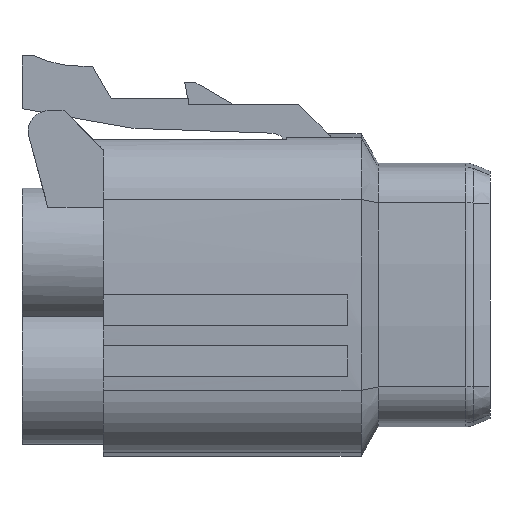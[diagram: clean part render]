
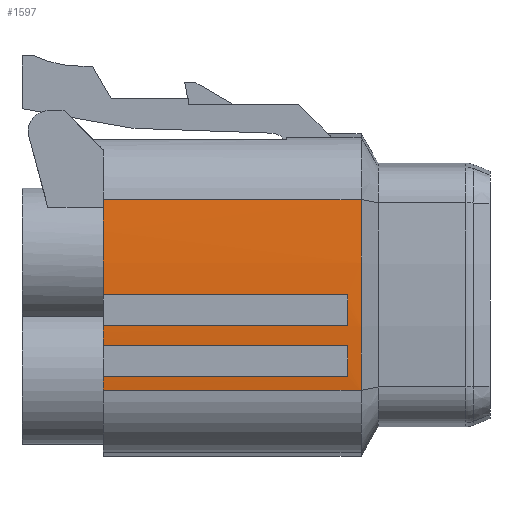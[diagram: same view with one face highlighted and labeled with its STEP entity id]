
A CAD part, front view. The second image highlights one B-rep face of the part: STEP entity #1597.
In plain terms, the highlighted cylindrical face has radius 41.45 mm (diameter 82.9 mm), a partial arc.
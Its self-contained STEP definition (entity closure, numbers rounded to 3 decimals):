
#328=AXIS2_PLACEMENT_3D('Circle Axis2P3D',#326,#327,$) ;
#445=AXIS2_PLACEMENT_3D('Circle Axis2P3D',#443,#444,$) ;
#473=AXIS2_PLACEMENT_3D('Circle Axis2P3D',#471,#472,$) ;
#1531=AXIS2_PLACEMENT_3D('Cylinder Axis2P3D',#1528,#1529,#1530) ;
#1542=AXIS2_PLACEMENT_3D('Circle Axis2P3D',#1540,#1541,$) ;
#1561=AXIS2_PLACEMENT_3D('Circle Axis2P3D',#1559,#1560,$) ;
#1573=AXIS2_PLACEMENT_3D('Circle Axis2P3D',#1571,#1572,$) ;
#323=CARTESIAN_POINT('Vertex',(-19.,-4.05,-1.7)) ;
#326=CARTESIAN_POINT('Axis2P3D Location',(-19.,37.4,-1.7)) ;
#330=CARTESIAN_POINT('Vertex',(-19.,-3.784,2.988)) ;
#440=CARTESIAN_POINT('Vertex',(-19.,-3.784,-6.388)) ;
#443=CARTESIAN_POINT('Axis2P3D Location',(-19.,37.4,-1.7)) ;
#447=CARTESIAN_POINT('Vertex',(-19.,-3.857,-5.7)) ;
#468=CARTESIAN_POINT('Vertex',(-19.,-3.975,-4.2)) ;
#471=CARTESIAN_POINT('Axis2P3D Location',(-19.,37.4,-1.7)) ;
#475=CARTESIAN_POINT('Vertex',(-19.,-4.023,-3.2)) ;
#1493=CARTESIAN_POINT('Line Origine',(-12.25,-3.784,2.988)) ;
#1497=CARTESIAN_POINT('Vertex',(-6.337,-3.784,2.988)) ;
#1528=CARTESIAN_POINT('Axis2P3D Location',(-12.25,37.4,-1.7)) ;
#1533=CARTESIAN_POINT('Line Origine',(-12.25,-3.975,-4.2)) ;
#1537=CARTESIAN_POINT('Vertex',(-7.,-3.975,-4.2)) ;
#1540=CARTESIAN_POINT('Axis2P3D Location',(-7.,37.4,-1.7)) ;
#1544=CARTESIAN_POINT('Vertex',(-7.,-3.857,-5.7)) ;
#1547=CARTESIAN_POINT('Line Origine',(-12.25,-3.857,-5.7)) ;
#1552=CARTESIAN_POINT('Line Origine',(-12.25,-3.784,-6.388)) ;
#1556=CARTESIAN_POINT('Vertex',(-6.337,-3.784,-6.388)) ;
#1559=CARTESIAN_POINT('Axis2P3D Location',(-6.337,37.4,-1.7)) ;
#1564=CARTESIAN_POINT('Line Origine',(-12.25,-4.05,-1.7)) ;
#1568=CARTESIAN_POINT('Vertex',(-7.,-4.05,-1.7)) ;
#1571=CARTESIAN_POINT('Axis2P3D Location',(-7.,37.4,-1.7)) ;
#1575=CARTESIAN_POINT('Vertex',(-7.,-4.023,-3.2)) ;
#1578=CARTESIAN_POINT('Line Origine',(-12.25,-4.023,-3.2)) ;
#327=DIRECTION('Axis2P3D Direction',(1.,0.,0.)) ;
#444=DIRECTION('Axis2P3D Direction',(1.,0.,0.)) ;
#472=DIRECTION('Axis2P3D Direction',(1.,0.,0.)) ;
#1494=DIRECTION('Vector Direction',(1.,0.,0.)) ;
#1529=DIRECTION('Axis2P3D Direction',(1.,0.,0.)) ;
#1530=DIRECTION('Axis2P3D XDirection',(0.,-0.994,0.113)) ;
#1534=DIRECTION('Vector Direction',(1.,0.,0.)) ;
#1541=DIRECTION('Axis2P3D Direction',(1.,0.,0.)) ;
#1548=DIRECTION('Vector Direction',(1.,0.,0.)) ;
#1553=DIRECTION('Vector Direction',(1.,0.,0.)) ;
#1560=DIRECTION('Axis2P3D Direction',(1.,0.,0.)) ;
#1565=DIRECTION('Vector Direction',(1.,0.,0.)) ;
#1572=DIRECTION('Axis2P3D Direction',(1.,0.,0.)) ;
#1579=DIRECTION('Vector Direction',(1.,0.,0.)) ;
#1495=VECTOR('Line Direction',#1494,1.) ;
#1535=VECTOR('Line Direction',#1534,1.) ;
#1549=VECTOR('Line Direction',#1548,1.) ;
#1554=VECTOR('Line Direction',#1553,1.) ;
#1566=VECTOR('Line Direction',#1565,1.) ;
#1580=VECTOR('Line Direction',#1579,1.) ;
#1584=ORIENTED_EDGE('',*,*,#477,.T.) ;
#1585=ORIENTED_EDGE('',*,*,#1539,.F.) ;
#1586=ORIENTED_EDGE('',*,*,#1546,.F.) ;
#1587=ORIENTED_EDGE('',*,*,#1551,.T.) ;
#1588=ORIENTED_EDGE('',*,*,#449,.T.) ;
#1589=ORIENTED_EDGE('',*,*,#1558,.F.) ;
#1590=ORIENTED_EDGE('',*,*,#1563,.F.) ;
#1591=ORIENTED_EDGE('',*,*,#1499,.T.) ;
#1592=ORIENTED_EDGE('',*,*,#332,.T.) ;
#1593=ORIENTED_EDGE('',*,*,#1570,.F.) ;
#1594=ORIENTED_EDGE('',*,*,#1577,.F.) ;
#1595=ORIENTED_EDGE('',*,*,#1582,.T.) ;
#1597=ADVANCED_FACE('\X2\FF8AFF9FFF70FF82\X0\ \X2\FF8EFF9EFF83FF9EFF68FF70\X0\',(#1596),#1532,.T.) ;
#329=CIRCLE('generated circle',#328,41.45) ;
#446=CIRCLE('generated circle',#445,41.45) ;
#474=CIRCLE('generated circle',#473,41.45) ;
#1543=CIRCLE('generated circle',#1542,41.45) ;
#1562=CIRCLE('generated circle',#1561,41.45) ;
#1574=CIRCLE('generated circle',#1573,41.45) ;
#1532=CYLINDRICAL_SURFACE('generated cylinder',#1531,41.45) ;
#332=EDGE_CURVE('',#331,#324,#329,.T.) ;
#449=EDGE_CURVE('',#448,#441,#446,.T.) ;
#477=EDGE_CURVE('',#476,#469,#474,.T.) ;
#1499=EDGE_CURVE('',#1498,#331,#1496,.F.) ;
#1539=EDGE_CURVE('',#1538,#469,#1536,.F.) ;
#1546=EDGE_CURVE('',#1545,#1538,#1543,.F.) ;
#1551=EDGE_CURVE('',#1545,#448,#1550,.F.) ;
#1558=EDGE_CURVE('',#1557,#441,#1555,.F.) ;
#1563=EDGE_CURVE('',#1498,#1557,#1562,.T.) ;
#1570=EDGE_CURVE('',#1569,#324,#1567,.F.) ;
#1577=EDGE_CURVE('',#1576,#1569,#1574,.F.) ;
#1582=EDGE_CURVE('',#1576,#476,#1581,.F.) ;
#1583=EDGE_LOOP('',(#1584,#1585,#1586,#1587,#1588,#1589,#1590,#1591,#1592,#1593,#1594,#1595)) ;
#1596=FACE_OUTER_BOUND('',#1583,.T.) ;
#1496=LINE('Line',#1493,#1495) ;
#1536=LINE('Line',#1533,#1535) ;
#1550=LINE('Line',#1547,#1549) ;
#1555=LINE('Line',#1552,#1554) ;
#1567=LINE('Line',#1564,#1566) ;
#1581=LINE('Line',#1578,#1580) ;
#324=VERTEX_POINT('',#323) ;
#331=VERTEX_POINT('',#330) ;
#441=VERTEX_POINT('',#440) ;
#448=VERTEX_POINT('',#447) ;
#469=VERTEX_POINT('',#468) ;
#476=VERTEX_POINT('',#475) ;
#1498=VERTEX_POINT('',#1497) ;
#1538=VERTEX_POINT('',#1537) ;
#1545=VERTEX_POINT('',#1544) ;
#1557=VERTEX_POINT('',#1556) ;
#1569=VERTEX_POINT('',#1568) ;
#1576=VERTEX_POINT('',#1575) ;
